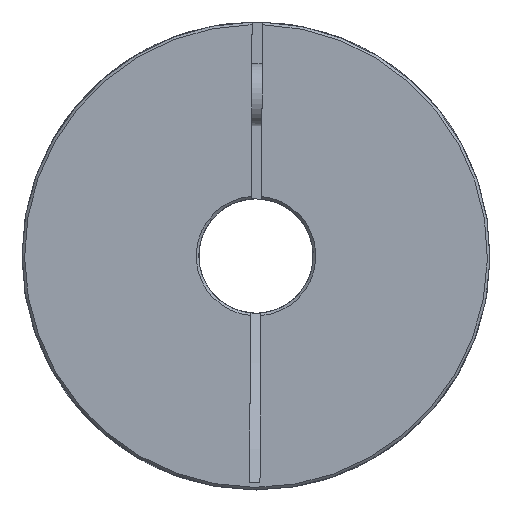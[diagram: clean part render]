
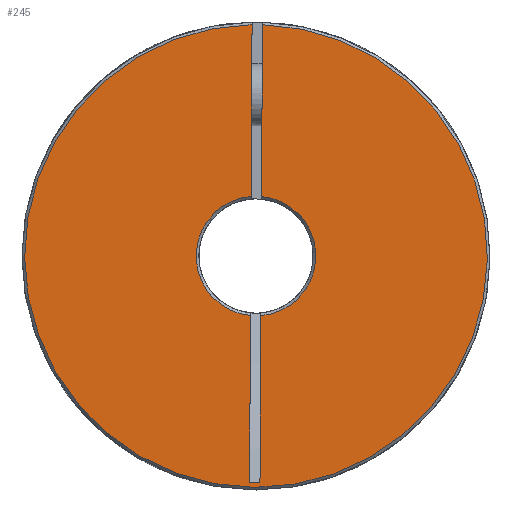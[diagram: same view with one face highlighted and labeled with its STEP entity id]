
A CAD part, left-side view. The second image highlights one B-rep face of the part: STEP entity #245.
In plain terms, the highlighted planar face has unit normal (-1, 0, 0).
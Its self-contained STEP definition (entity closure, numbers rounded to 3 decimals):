
#245 = ADVANCED_FACE( 'NONE', ( #526 ), #527, .F. );
#526 = FACE_OUTER_BOUND( '', #915, .T. );
#527 = PLANE( '', #916 );
#915 = EDGE_LOOP( '', ( #1368, #1369, #1370, #1371, #1372, #1373, #1374, #1375 ) );
#916 = AXIS2_PLACEMENT_3D( '', #1376, #1377, #1378 );
#1368 = ORIENTED_EDGE( '', *, *, #1964, .T. );
#1369 = ORIENTED_EDGE( '', *, *, #1965, .T. );
#1370 = ORIENTED_EDGE( '', *, *, #1966, .T. );
#1371 = ORIENTED_EDGE( '', *, *, #1967, .T. );
#1372 = ORIENTED_EDGE( '', *, *, #1968, .F. );
#1373 = ORIENTED_EDGE( '', *, *, #1969, .T. );
#1374 = ORIENTED_EDGE( '', *, *, #1970, .F. );
#1375 = ORIENTED_EDGE( '', *, *, #1952, .T. );
#1376 = CARTESIAN_POINT( '', ( 0., 11., 0. ) );
#1377 = DIRECTION( '', ( 1., 0., 0. ) );
#1378 = DIRECTION( '', ( 0., 1., 0. ) );
#1952 = EDGE_CURVE( 'NONE', #2244, #2246, #2248, .T. );
#1964 = EDGE_CURVE( 'NONE', #2246, #2267, #2268, .T. );
#1965 = EDGE_CURVE( 'NONE', #2267, #2269, #2270, .T. );
#1966 = EDGE_CURVE( 'NONE', #2269, #2271, #2272, .T. );
#1967 = EDGE_CURVE( 'NONE', #2271, #2273, #2274, .F. );
#1968 = EDGE_CURVE( 'NONE', #2275, #2273, #2276, .F. );
#1969 = EDGE_CURVE( 'NONE', #2275, #2277, #2278, .T. );
#1970 = EDGE_CURVE( 'NONE', #2244, #2277, #2279, .F. );
#2244 = VERTEX_POINT( 'NONE', #2691 );
#2246 = VERTEX_POINT( 'NONE', #2693 );
#2248 = LINE( '', #2695, #2696 );
#2267 = VERTEX_POINT( 'NONE', #2717 );
#2268 = LINE( '', #2718, #2719 );
#2269 = VERTEX_POINT( 'NONE', #2720 );
#2270 = CIRCLE( '', #2721, 11.5 );
#2271 = VERTEX_POINT( 'NONE', #2722 );
#2272 = LINE( '', #2723, #2724 );
#2273 = VERTEX_POINT( 'NONE', #2725 );
#2274 = CIRCLE( '', #2726, 44.5 );
#2275 = VERTEX_POINT( 'NONE', #2727 );
#2276 = LINE( '', #2728, #2729 );
#2277 = VERTEX_POINT( 'NONE', #2730 );
#2278 = CIRCLE( '', #2731, 11.5 );
#2279 = LINE( '', #2732, #2733 );
#2691 = CARTESIAN_POINT( '', ( 0., 43.508, -1. ) );
#2693 = CARTESIAN_POINT( '', ( 0., 43.508, 1. ) );
#2695 = CARTESIAN_POINT( '', ( 0., 43.508, -1. ) );
#2696 = VECTOR( '', #3172, 1000. );
#2717 = CARTESIAN_POINT( '', ( 0., 11.456, 1. ) );
#2718 = CARTESIAN_POINT( '', ( 0., 11., 1. ) );
#2719 = VECTOR( '', #3190, 1000. );
#2720 = CARTESIAN_POINT( '', ( 0., -11.456, 1. ) );
#2721 = AXIS2_PLACEMENT_3D( '', #3191, #3192, #3193 );
#2722 = CARTESIAN_POINT( '', ( 0., -44.489, 1. ) );
#2723 = CARTESIAN_POINT( '', ( 0., 11., 1. ) );
#2724 = VECTOR( '', #3194, 1000. );
#2725 = CARTESIAN_POINT( '', ( 0., -44.489, -1. ) );
#2726 = AXIS2_PLACEMENT_3D( '', #3195, #3196, #3197 );
#2727 = CARTESIAN_POINT( '', ( 0., -11.456, -1. ) );
#2728 = CARTESIAN_POINT( '', ( 0., -9., -1. ) );
#2729 = VECTOR( '', #3198, 1000. );
#2730 = CARTESIAN_POINT( '', ( 0., 11.456, -1. ) );
#2731 = AXIS2_PLACEMENT_3D( '', #3199, #3200, #3201 );
#2732 = CARTESIAN_POINT( '', ( 0., -9., -1. ) );
#2733 = VECTOR( '', #3202, 1000. );
#3172 = DIRECTION( '', ( 0., 0., 1. ) );
#3190 = DIRECTION( '', ( 0., -1., 0. ) );
#3191 = CARTESIAN_POINT( '', ( 0., 0., 0. ) );
#3192 = DIRECTION( '', ( 1., 0., 0. ) );
#3193 = DIRECTION( '', ( 0., 0., -1. ) );
#3194 = DIRECTION( '', ( 0., -1., 0. ) );
#3195 = CARTESIAN_POINT( '', ( 0., 0., 0. ) );
#3196 = DIRECTION( '', ( 1., 0., 0. ) );
#3197 = DIRECTION( '', ( 0., 0., -1. ) );
#3198 = DIRECTION( '', ( 0., 1., 0. ) );
#3199 = CARTESIAN_POINT( '', ( 0., 0., 0. ) );
#3200 = DIRECTION( '', ( 1., 0., 0. ) );
#3201 = DIRECTION( '', ( 0., 0., -1. ) );
#3202 = DIRECTION( '', ( 0., 1., 0. ) );
